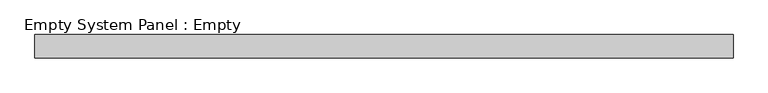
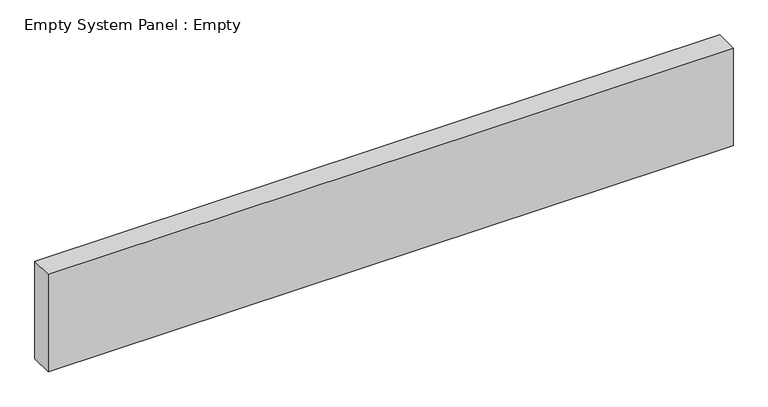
"""IFC4 building model written with IfcOpenShell, lengths in millimetres: plate geometry, Empty System Panel : Empty."""

from ifc_helpers import new_model, si_unit, origin, origin_with_axes, place, context, project, spatial, polyline, outline, extrude, source, transform, mapped, element, save


def empty_system_panel_empty_44b8d910(model_context):
    return source(origin(), model_context, "Body", "SweptSolid", [
        extrude(outline(polyline([(1500.0, -50.0), (-1500.0, -50.0), (-1500.0, 50.0), (1500.0, 50.0), (1500.0, -50.0)])), origin_with_axes(), (0.0, 0.0, 1.0), 451.7624099),
    ])


if __name__ == "__main__":
    model = new_model("IFC4")
    model_context = context("Model", 3, world=origin())
    ifc_project = project(units=[si_unit("LENGTHUNIT", "METRE", prefix="MILLI")], contexts=[model_context])
    site = spatial("IfcSite", under=ifc_project)
    building = spatial("IfcBuilding", under=site)
    placement = place(None, origin())
    empty_system_panel_empty_shape = empty_system_panel_empty_44b8d910(model_context)
    element("IfcPlate", 1, ObjectType="Empty System Panel : Empty", at=placement, inside=building, context=model_context, shape_type="MappedRepresentation", body=[
        mapped(empty_system_panel_empty_shape, transform((0.0, 0.0, 0.0), x_axis=(1.0, 0.0, 0.0), y_axis=(0.0, 1.0, 0.0), z_axis=(0.0, 0.0, 1.0))),
    ])
    save(model, "model.ifc")
